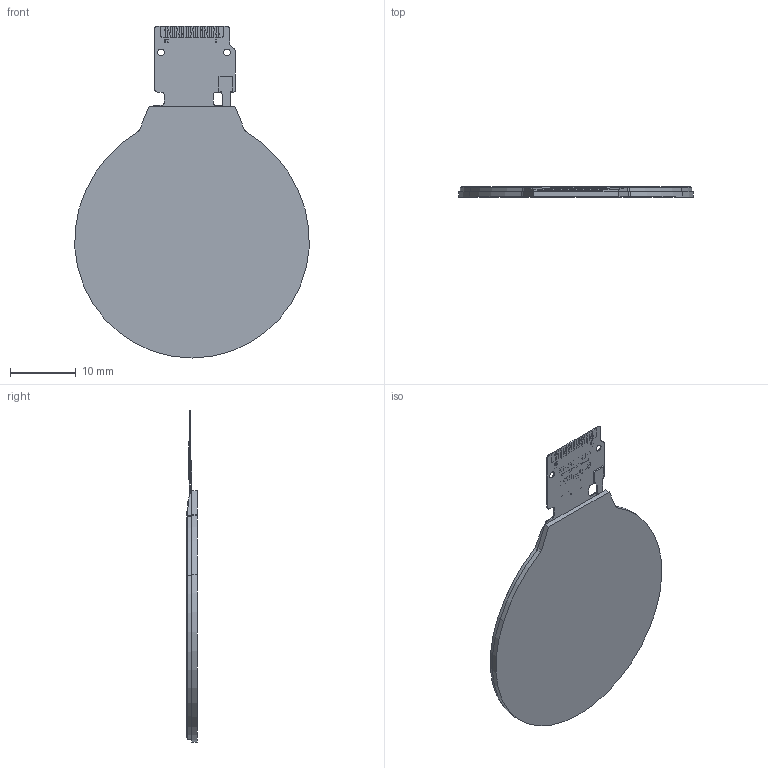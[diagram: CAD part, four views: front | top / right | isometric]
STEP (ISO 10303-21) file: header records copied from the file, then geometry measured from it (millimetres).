
FILE_DESCRIPTION (( 'STEP AP214' ), '1' );
FILE_NAME ('ER-TFT1.28-1.STEP', '2023-09-19T13:18:44', ( 'PC' ), ( 'Microsoft' ), 'SwSTEP 2.0', 'SolidWorks 2020', '' );
FILE_SCHEMA (( 'AUTOMOTIVE_DESIGN' ));
Length unit declared in the file: millimetre
Products named in the file (3): 4no_3ogo; ER-TFT1.28-1; 沺遺
Assembly tree (2 placements, depth 2):
  ER-TFT1.28-1
    沺遺
    4no_3ogo
Bounding box: 35.53 x 1.55 x 50.34 mm (x, y, z)
Volume: 1611.2 mm3; surface area: 6573.8 mm2
Topology: 36 solids, 36 shells, 822 faces, 2290 edges, 1562 vertices
Faces by surface type: plane 510, bspline 280, cylinder 32
Entity records: 43961 total; most frequent: CARTESIAN_POINT 19447, ORIENTED_EDGE 4580, DIRECTION 2942, EDGE_CURVE 2290, VECTOR 1612, LINE 1612, VERTEX_POINT 1562, EDGE_LOOP 866
